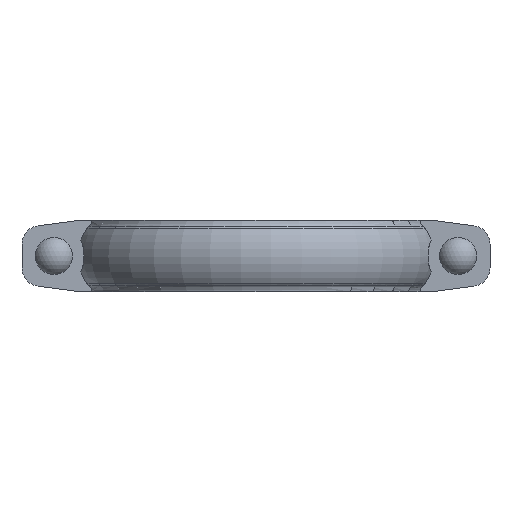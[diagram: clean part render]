
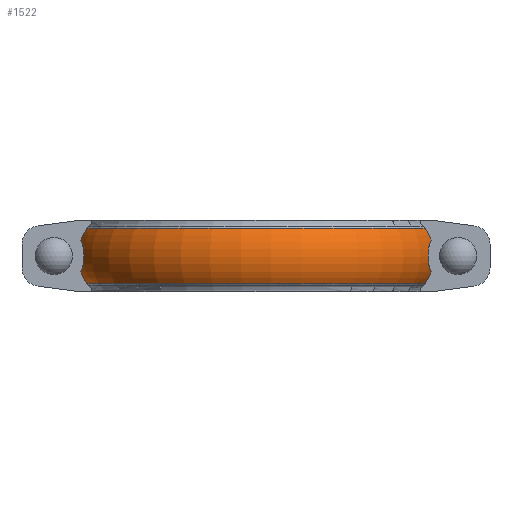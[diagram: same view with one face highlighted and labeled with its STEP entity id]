
A CAD part, front view. The second image highlights one B-rep face of the part: STEP entity #1522.
In plain terms, the highlighted toroidal (fillet/blend) face has major radius 139.7 mm and minor radius 50.8 mm.
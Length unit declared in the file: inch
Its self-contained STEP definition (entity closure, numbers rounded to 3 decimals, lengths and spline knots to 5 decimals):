
#47=TOROIDAL_SURFACE('',#1652,5.5,2.);
#70=B_SPLINE_CURVE_WITH_KNOTS('',3,(#2475,#2476,#2477,#2478,#2479,#2480,
#2481,#2482),.UNSPECIFIED.,.F.,.F.,(4,2,2,4),(-1.79651,-0.78438,
-0.32042,0.),.UNSPECIFIED.);
#71=B_SPLINE_CURVE_WITH_KNOTS('',3,(#2488,#2489,#2490,#2491,#2492,#2493),
 .UNSPECIFIED.,.F.,.F.,(4,2,4),(25.18192,25.52029,25.85866),
 .UNSPECIFIED.);
#72=B_SPLINE_CURVE_WITH_KNOTS('',3,(#2499,#2500,#2501,#2502,#2503,#2504,
#2505,#2506),.UNSPECIFIED.,.F.,.F.,(4,2,2,4),(-2.69949,-2.16,
-1.54832,0.),.UNSPECIFIED.);
#73=B_SPLINE_CURVE_WITH_KNOTS('',3,(#2510,#2511,#2512,#2513,#2514,#2515,
#2516,#2517),.UNSPECIFIED.,.F.,.F.,(4,2,2,4),(1.55571,1.84247,
2.78819,2.81611),.UNSPECIFIED.);
#74=B_SPLINE_CURVE_WITH_KNOTS('',3,(#2521,#2522,#2523,#2524,#2525,#2526,
#2527,#2528),.UNSPECIFIED.,.F.,.F.,(4,2,2,4),(-2.81611,-2.78819,
-1.84247,-1.55571),.UNSPECIFIED.);
#75=B_SPLINE_CURVE_WITH_KNOTS('',3,(#2530,#2531,#2532,#2533,#2534,#2535,
#2536,#2537),.UNSPECIFIED.,.F.,.F.,(4,2,2,4),(-1.79651,-0.78438,
-0.32042,0.),.UNSPECIFIED.);
#76=B_SPLINE_CURVE_WITH_KNOTS('',3,(#2539,#2540,#2541,#2542,#2543,#2544),
 .UNSPECIFIED.,.F.,.F.,(4,2,4),(8.16839,8.50676,8.84514),
 .UNSPECIFIED.);
#77=B_SPLINE_CURVE_WITH_KNOTS('',3,(#2546,#2547,#2548,#2549,#2550,#2551,
#2552,#2553),.UNSPECIFIED.,.F.,.F.,(4,2,2,4),(-2.69949,-2.16,
-1.54832,0.),.UNSPECIFIED.);
#78=B_SPLINE_CURVE_WITH_KNOTS('',3,(#2555,#2556,#2557,#2558,#2559,#2560,
#2561,#2562),.UNSPECIFIED.,.F.,.F.,(4,2,2,4),(1.55571,1.84247,
2.78819,2.81611),.UNSPECIFIED.);
#79=B_SPLINE_CURVE_WITH_KNOTS('',3,(#2565,#2566,#2567,#2568,#2569,#2570,
#2571,#2572),.UNSPECIFIED.,.F.,.F.,(4,2,2,4),(-2.81611,-2.78819,
-1.84247,-1.55571),.UNSPECIFIED.);
#185=FACE_OUTER_BOUND('',#269,.T.);
#269=EDGE_LOOP('',(#1127,#1128,#1129,#1130,#1131,#1132,#1133,#1134,#1135,
#1136,#1137,#1138));
#568=CIRCLE('',#1653,7.16804);
#569=CIRCLE('',#1654,7.16804);
#678=VERTEX_POINT('',#2473);
#679=VERTEX_POINT('',#2474);
#681=VERTEX_POINT('',#2487);
#683=VERTEX_POINT('',#2498);
#684=VERTEX_POINT('',#2509);
#685=VERTEX_POINT('',#2518);
#686=VERTEX_POINT('',#2520);
#687=VERTEX_POINT('',#2529);
#688=VERTEX_POINT('',#2538);
#689=VERTEX_POINT('',#2545);
#690=VERTEX_POINT('',#2554);
#691=VERTEX_POINT('',#2563);
#843=EDGE_CURVE('',#678,#679,#70,.T.);
#846=EDGE_CURVE('',#679,#681,#71,.T.);
#849=EDGE_CURVE('',#681,#683,#72,.T.);
#851=EDGE_CURVE('',#683,#684,#73,.T.);
#852=EDGE_CURVE('',#684,#685,#568,.T.);
#853=EDGE_CURVE('',#685,#686,#74,.T.);
#854=EDGE_CURVE('',#686,#687,#75,.T.);
#855=EDGE_CURVE('',#687,#688,#76,.T.);
#856=EDGE_CURVE('',#688,#689,#77,.T.);
#857=EDGE_CURVE('',#689,#690,#78,.T.);
#858=EDGE_CURVE('',#691,#690,#569,.T.);
#859=EDGE_CURVE('',#691,#678,#79,.T.);
#1127=ORIENTED_EDGE('',*,*,#843,.T.);
#1128=ORIENTED_EDGE('',*,*,#846,.T.);
#1129=ORIENTED_EDGE('',*,*,#849,.T.);
#1130=ORIENTED_EDGE('',*,*,#851,.T.);
#1131=ORIENTED_EDGE('',*,*,#852,.T.);
#1132=ORIENTED_EDGE('',*,*,#853,.T.);
#1133=ORIENTED_EDGE('',*,*,#854,.T.);
#1134=ORIENTED_EDGE('',*,*,#855,.T.);
#1135=ORIENTED_EDGE('',*,*,#856,.T.);
#1136=ORIENTED_EDGE('',*,*,#857,.T.);
#1137=ORIENTED_EDGE('',*,*,#858,.F.);
#1138=ORIENTED_EDGE('',*,*,#859,.T.);
#1522=ADVANCED_FACE('',(#185),#47,.T.);
#1652=AXIS2_PLACEMENT_3D('',#2508,#1933,#1934);
#1653=AXIS2_PLACEMENT_3D('',#2519,#1935,#1936);
#1654=AXIS2_PLACEMENT_3D('',#2564,#1937,#1938);
#1933=DIRECTION('center_axis',(0.,0.,-1.));
#1934=DIRECTION('ref_axis',(1.,0.,0.));
#1935=DIRECTION('center_axis',(0.,0.,-1.));
#1936=DIRECTION('ref_axis',(-1.,0.,0.));
#1937=DIRECTION('center_axis',(0.,0.,-1.));
#1938=DIRECTION('ref_axis',(-1.,0.,0.));
#2473=CARTESIAN_POINT('',(7.01544,-2.3375,-0.64065));
#2474=CARTESIAN_POINT('',(6.905,-2.91503,-0.14));
#2475=CARTESIAN_POINT('Ctrl Pts',(7.01544,-2.3375,-0.64065));
#2476=CARTESIAN_POINT('Ctrl Pts',(6.98145,-2.51793,-0.56736));
#2477=CARTESIAN_POINT('Ctrl Pts',(6.95253,-2.65725,-0.48504));
#2478=CARTESIAN_POINT('Ctrl Pts',(6.92407,-2.79951,-0.35618));
#2479=CARTESIAN_POINT('Ctrl Pts',(6.91593,-2.84093,-0.3094));
#2480=CARTESIAN_POINT('Ctrl Pts',(6.90716,-2.89206,-0.22042));
#2481=CARTESIAN_POINT('Ctrl Pts',(6.905,-2.90757,-0.18138));
#2482=CARTESIAN_POINT('Ctrl Pts',(6.905,-2.91503,-0.14));
#2487=CARTESIAN_POINT('',(6.905,-2.91503,0.14));
#2488=CARTESIAN_POINT('Ctrl Pts',(6.905,-2.91503,-0.14));
#2489=CARTESIAN_POINT('Ctrl Pts',(6.905,-2.92362,-0.0924));
#2490=CARTESIAN_POINT('Ctrl Pts',(6.905,-2.92762,-0.04441));
#2491=CARTESIAN_POINT('Ctrl Pts',(6.905,-2.92762,0.04441));
#2492=CARTESIAN_POINT('Ctrl Pts',(6.905,-2.92362,0.0924));
#2493=CARTESIAN_POINT('Ctrl Pts',(6.905,-2.91503,0.14));
#2498=CARTESIAN_POINT('',(7.01544,-2.3375,0.64065));
#2499=CARTESIAN_POINT('Ctrl Pts',(6.905,-2.91503,0.14));
#2500=CARTESIAN_POINT('Ctrl Pts',(6.905,-2.90673,0.18601));
#2501=CARTESIAN_POINT('Ctrl Pts',(6.90767,-2.8885,0.22909));
#2502=CARTESIAN_POINT('Ctrl Pts',(6.91688,-2.8363,0.31371));
#2503=CARTESIAN_POINT('Ctrl Pts',(6.92387,-2.8006,0.35421));
#2504=CARTESIAN_POINT('Ctrl Pts',(6.951,-2.66469,0.48049));
#2505=CARTESIAN_POINT('Ctrl Pts',(6.9805,-2.52295,0.56532));
#2506=CARTESIAN_POINT('Ctrl Pts',(7.01544,-2.3375,0.64065));
#2508=CARTESIAN_POINT('Origin',(0.,0.,0.));
#2509=CARTESIAN_POINT('',(6.7762,-2.3375,1.10347));
#2510=CARTESIAN_POINT('Ctrl Pts',(7.01544,-2.3375,0.64065));
#2511=CARTESIAN_POINT('Ctrl Pts',(7.0022,-2.3375,0.6778));
#2512=CARTESIAN_POINT('Ctrl Pts',(6.98806,-2.3375,0.71386));
#2513=CARTESIAN_POINT('Ctrl Pts',(6.92471,-2.3375,0.86268));
#2514=CARTESIAN_POINT('Ctrl Pts',(6.85993,-2.3375,0.98232));
#2515=CARTESIAN_POINT('Ctrl Pts',(6.78077,-2.3375,1.09692));
#2516=CARTESIAN_POINT('Ctrl Pts',(6.77849,-2.3375,1.1002));
#2517=CARTESIAN_POINT('Ctrl Pts',(6.7762,-2.3375,1.10347));
#2518=CARTESIAN_POINT('',(-6.7762,-2.3375,1.10347));
#2519=CARTESIAN_POINT('Origin',(0.,0.,1.10347));
#2520=CARTESIAN_POINT('',(-7.01544,-2.3375,0.64065));
#2521=CARTESIAN_POINT('Ctrl Pts',(-6.7762,-2.3375,1.10347));
#2522=CARTESIAN_POINT('Ctrl Pts',(-6.77849,-2.3375,1.1002));
#2523=CARTESIAN_POINT('Ctrl Pts',(-6.78077,-2.3375,1.09692));
#2524=CARTESIAN_POINT('Ctrl Pts',(-6.85993,-2.3375,0.98232));
#2525=CARTESIAN_POINT('Ctrl Pts',(-6.92471,-2.3375,0.86268));
#2526=CARTESIAN_POINT('Ctrl Pts',(-6.98806,-2.3375,0.71386));
#2527=CARTESIAN_POINT('Ctrl Pts',(-7.0022,-2.3375,0.6778));
#2528=CARTESIAN_POINT('Ctrl Pts',(-7.01544,-2.3375,0.64065));
#2529=CARTESIAN_POINT('',(-6.905,-2.91503,0.14));
#2530=CARTESIAN_POINT('Ctrl Pts',(-7.01544,-2.3375,0.64065));
#2531=CARTESIAN_POINT('Ctrl Pts',(-6.98145,-2.51793,0.56736));
#2532=CARTESIAN_POINT('Ctrl Pts',(-6.95253,-2.65725,0.48504));
#2533=CARTESIAN_POINT('Ctrl Pts',(-6.92407,-2.79951,0.35618));
#2534=CARTESIAN_POINT('Ctrl Pts',(-6.91593,-2.84093,0.3094));
#2535=CARTESIAN_POINT('Ctrl Pts',(-6.90716,-2.89206,0.22042));
#2536=CARTESIAN_POINT('Ctrl Pts',(-6.905,-2.90757,0.18138));
#2537=CARTESIAN_POINT('Ctrl Pts',(-6.905,-2.91503,0.14));
#2538=CARTESIAN_POINT('',(-6.905,-2.91503,-0.14));
#2539=CARTESIAN_POINT('Ctrl Pts',(-6.905,-2.91503,0.14));
#2540=CARTESIAN_POINT('Ctrl Pts',(-6.905,-2.92362,0.0924));
#2541=CARTESIAN_POINT('Ctrl Pts',(-6.905,-2.92762,0.04441));
#2542=CARTESIAN_POINT('Ctrl Pts',(-6.905,-2.92762,-0.04441));
#2543=CARTESIAN_POINT('Ctrl Pts',(-6.905,-2.92362,-0.0924));
#2544=CARTESIAN_POINT('Ctrl Pts',(-6.905,-2.91503,-0.14));
#2545=CARTESIAN_POINT('',(-7.01544,-2.3375,-0.64065));
#2546=CARTESIAN_POINT('Ctrl Pts',(-6.905,-2.91503,-0.14));
#2547=CARTESIAN_POINT('Ctrl Pts',(-6.905,-2.90673,-0.18601));
#2548=CARTESIAN_POINT('Ctrl Pts',(-6.90767,-2.8885,-0.22909));
#2549=CARTESIAN_POINT('Ctrl Pts',(-6.91688,-2.8363,-0.31371));
#2550=CARTESIAN_POINT('Ctrl Pts',(-6.92387,-2.8006,-0.35421));
#2551=CARTESIAN_POINT('Ctrl Pts',(-6.951,-2.66469,-0.48049));
#2552=CARTESIAN_POINT('Ctrl Pts',(-6.9805,-2.52295,-0.56532));
#2553=CARTESIAN_POINT('Ctrl Pts',(-7.01544,-2.3375,-0.64065));
#2554=CARTESIAN_POINT('',(-6.7762,-2.3375,-1.10347));
#2555=CARTESIAN_POINT('Ctrl Pts',(-7.01544,-2.3375,-0.64065));
#2556=CARTESIAN_POINT('Ctrl Pts',(-7.0022,-2.3375,-0.6778));
#2557=CARTESIAN_POINT('Ctrl Pts',(-6.98806,-2.3375,-0.71386));
#2558=CARTESIAN_POINT('Ctrl Pts',(-6.92471,-2.3375,-0.86268));
#2559=CARTESIAN_POINT('Ctrl Pts',(-6.85993,-2.3375,-0.98232));
#2560=CARTESIAN_POINT('Ctrl Pts',(-6.78077,-2.3375,-1.09692));
#2561=CARTESIAN_POINT('Ctrl Pts',(-6.77849,-2.3375,-1.1002));
#2562=CARTESIAN_POINT('Ctrl Pts',(-6.7762,-2.3375,-1.10347));
#2563=CARTESIAN_POINT('',(6.7762,-2.3375,-1.10347));
#2564=CARTESIAN_POINT('Origin',(0.,0.,-1.10347));
#2565=CARTESIAN_POINT('Ctrl Pts',(6.7762,-2.3375,-1.10347));
#2566=CARTESIAN_POINT('Ctrl Pts',(6.77849,-2.3375,-1.1002));
#2567=CARTESIAN_POINT('Ctrl Pts',(6.78077,-2.3375,-1.09692));
#2568=CARTESIAN_POINT('Ctrl Pts',(6.85993,-2.3375,-0.98232));
#2569=CARTESIAN_POINT('Ctrl Pts',(6.92471,-2.3375,-0.86268));
#2570=CARTESIAN_POINT('Ctrl Pts',(6.98806,-2.3375,-0.71386));
#2571=CARTESIAN_POINT('Ctrl Pts',(7.0022,-2.3375,-0.6778));
#2572=CARTESIAN_POINT('Ctrl Pts',(7.01544,-2.3375,-0.64065));
